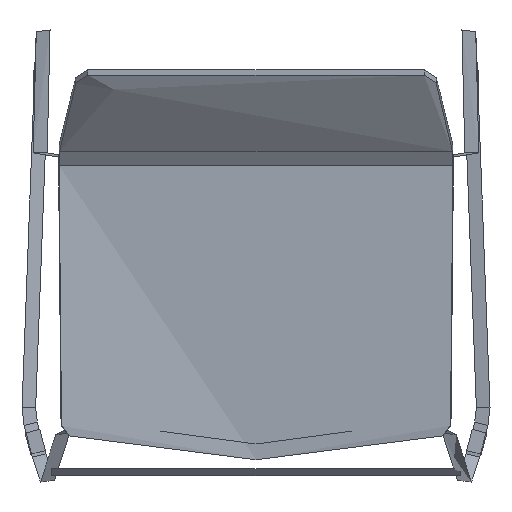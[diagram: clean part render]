
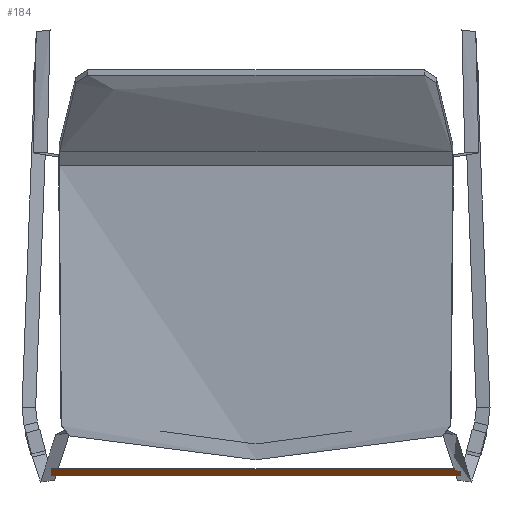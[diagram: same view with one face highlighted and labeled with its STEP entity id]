
A CAD part, top view. The second image highlights one B-rep face of the part: STEP entity #184.
In plain terms, the highlighted free-form (B-spline) face has degree [2, 1] with [5, 2] control points.
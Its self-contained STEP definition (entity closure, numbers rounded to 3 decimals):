
#184=ADVANCED_FACE('',(#315),#1899,.T.);
#315=FACE_OUTER_BOUND('',#446,.T.);
#446=EDGE_LOOP('',(#687,#688,#689,#690,#691,#692));
#687=ORIENTED_EDGE('',*,*,#1193,.T.);
#688=ORIENTED_EDGE('',*,*,#1195,.T.);
#689=ORIENTED_EDGE('',*,*,#1190,.T.);
#690=ORIENTED_EDGE('',*,*,#1192,.F.);
#691=ORIENTED_EDGE('',*,*,#1189,.T.);
#692=ORIENTED_EDGE('',*,*,#1188,.T.);
#1188=EDGE_CURVE('',#1696,#1700,#1492,.T.);
#1189=EDGE_CURVE('',#1697,#1696,#1493,.T.);
#1190=EDGE_CURVE('',#1698,#1699,#1494,.T.);
#1192=EDGE_CURVE('',#1697,#1699,#1496,.T.);
#1193=EDGE_CURVE('',#1700,#1701,#1497,.T.);
#1195=EDGE_CURVE('',#1701,#1698,#1499,.T.);
#1492=(
BOUNDED_CURVE()
B_SPLINE_CURVE(2,(#4024,#4025,#4026),.UNSPECIFIED.,.F.,.F.)
B_SPLINE_CURVE_WITH_KNOTS((3,3),(0.,12.566),.UNSPECIFIED.)
CURVE()
GEOMETRIC_REPRESENTATION_ITEM()
RATIONAL_B_SPLINE_CURVE((1.,0.707,1.))
REPRESENTATION_ITEM('')
);
#1493=(
BOUNDED_CURVE()
B_SPLINE_CURVE(2,(#4027,#4028,#4029),.UNSPECIFIED.,.F.,.F.)
B_SPLINE_CURVE_WITH_KNOTS((3,3),(38.574,50.265),
 .UNSPECIFIED.)
CURVE()
GEOMETRIC_REPRESENTATION_ITEM()
RATIONAL_B_SPLINE_CURVE((1.,0.742,1.))
REPRESENTATION_ITEM('')
);
#1494=(
BOUNDED_CURVE()
B_SPLINE_CURVE(2,(#4030,#4031,#4032),.UNSPECIFIED.,.F.,.F.)
B_SPLINE_CURVE_WITH_KNOTS((3,3),(-50.265,-38.574),
 .UNSPECIFIED.)
CURVE()
GEOMETRIC_REPRESENTATION_ITEM()
RATIONAL_B_SPLINE_CURVE((1.,0.742,1.))
REPRESENTATION_ITEM('')
);
#1496=(
BOUNDED_CURVE()
B_SPLINE_CURVE(1,(#4040,#4041),.UNSPECIFIED.,.F.,.F.)
B_SPLINE_CURVE_WITH_KNOTS((2,2),(0.,466.173),
 .UNSPECIFIED.)
CURVE()
GEOMETRIC_REPRESENTATION_ITEM()
RATIONAL_B_SPLINE_CURVE((1.,1.))
REPRESENTATION_ITEM('')
);
#1497=(
BOUNDED_CURVE()
B_SPLINE_CURVE(1,(#4042,#4043),.UNSPECIFIED.,.F.,.F.)
B_SPLINE_CURVE_WITH_KNOTS((2,2),(0.,466.173),
 .UNSPECIFIED.)
CURVE()
GEOMETRIC_REPRESENTATION_ITEM()
RATIONAL_B_SPLINE_CURVE((1.,1.))
REPRESENTATION_ITEM('')
);
#1499=(
BOUNDED_CURVE()
B_SPLINE_CURVE(2,(#4051,#4052,#4053),.UNSPECIFIED.,.F.,.F.)
B_SPLINE_CURVE_WITH_KNOTS((3,3),(-12.566,0.),.UNSPECIFIED.)
CURVE()
GEOMETRIC_REPRESENTATION_ITEM()
RATIONAL_B_SPLINE_CURVE((1.,0.707,1.))
REPRESENTATION_ITEM('')
);
#1696=VERTEX_POINT('',#4018);
#1697=VERTEX_POINT('',#4019);
#1698=VERTEX_POINT('',#4020);
#1699=VERTEX_POINT('',#4021);
#1700=VERTEX_POINT('',#4022);
#1701=VERTEX_POINT('',#4023);
#1899=(
BOUNDED_SURFACE()
B_SPLINE_SURFACE(2,1,((#3994,#3995),(#3996,#3997),(#3998,#3999),(#4000,
#4001),(#4002,#4003)),.UNSPECIFIED.,.F.,.F.,.F.)
B_SPLINE_SURFACE_WITH_KNOTS((3,2,3),(2,2),(0.,11.691,24.258),
(0.,466.173),.UNSPECIFIED.)
GEOMETRIC_REPRESENTATION_ITEM()
RATIONAL_B_SPLINE_SURFACE(((0.962,0.962),(0.728,
0.728),(1.,1.),(0.707,0.707),(1.,1.)))
REPRESENTATION_ITEM('')
SURFACE()
);
#3994=CARTESIAN_POINT('',(233.086,-219.882,202.04));
#3995=CARTESIAN_POINT('',(-233.086,-219.882,202.04));
#3996=CARTESIAN_POINT('',(233.086,-227.08,202.766));
#3997=CARTESIAN_POINT('',(-233.086,-227.08,202.766));
#3998=CARTESIAN_POINT('',(233.086,-227.08,210.));
#3999=CARTESIAN_POINT('',(-233.086,-227.08,210.));
#4000=CARTESIAN_POINT('',(233.086,-227.08,218.));
#4001=CARTESIAN_POINT('',(-233.086,-227.08,218.));
#4002=CARTESIAN_POINT('',(233.086,-219.08,218.));
#4003=CARTESIAN_POINT('',(-233.086,-219.08,218.));
#4018=CARTESIAN_POINT('',(233.086,-227.08,210.));
#4019=CARTESIAN_POINT('',(233.086,-219.882,202.04));
#4020=CARTESIAN_POINT('',(-233.086,-227.08,210.));
#4021=CARTESIAN_POINT('',(-233.086,-219.882,202.04));
#4022=CARTESIAN_POINT('',(233.086,-219.08,218.));
#4023=CARTESIAN_POINT('',(-233.086,-219.08,218.));
#4024=CARTESIAN_POINT('',(233.086,-227.08,210.));
#4025=CARTESIAN_POINT('',(233.086,-227.08,218.));
#4026=CARTESIAN_POINT('',(233.086,-219.08,218.));
#4027=CARTESIAN_POINT('',(233.086,-219.882,202.04));
#4028=CARTESIAN_POINT('',(233.086,-227.08,202.766));
#4029=CARTESIAN_POINT('',(233.086,-227.08,210.));
#4030=CARTESIAN_POINT('',(-233.086,-227.08,210.));
#4031=CARTESIAN_POINT('',(-233.086,-227.08,202.766));
#4032=CARTESIAN_POINT('',(-233.086,-219.882,202.04));
#4040=CARTESIAN_POINT('',(233.086,-219.882,202.04));
#4041=CARTESIAN_POINT('',(-233.086,-219.882,202.04));
#4042=CARTESIAN_POINT('',(233.086,-219.08,218.));
#4043=CARTESIAN_POINT('',(-233.086,-219.08,218.));
#4051=CARTESIAN_POINT('',(-233.086,-219.08,218.));
#4052=CARTESIAN_POINT('',(-233.086,-227.08,218.));
#4053=CARTESIAN_POINT('',(-233.086,-227.08,210.));
